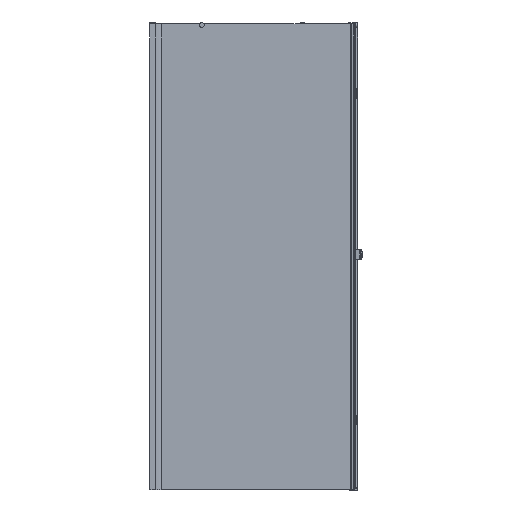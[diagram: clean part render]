
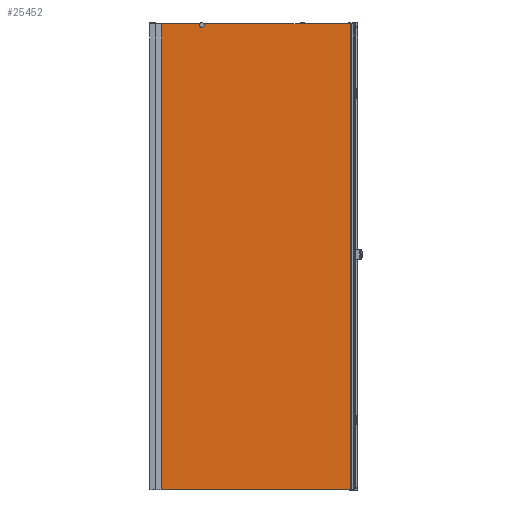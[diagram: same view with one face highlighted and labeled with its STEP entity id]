
A CAD part, front view. The second image highlights one B-rep face of the part: STEP entity #25452.
In plain terms, the highlighted planar face has unit normal (0, -1, 0).
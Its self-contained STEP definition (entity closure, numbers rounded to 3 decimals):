
#885=PLANE($,#27602);
#2660=LINE($,#55215,#4877);
#3184=LINE($,#56915,#5401);
#3209=LINE($,#56996,#5426);
#3223=LINE($,#57030,#5440);
#3224=LINE($,#57031,#5441);
#4877=VECTOR($,#32168,627.423);
#5401=VECTOR($,#33470,1998.591);
#5426=VECTOR($,#33551,809.419);
#5440=VECTOR($,#33573,164.716);
#5441=VECTOR($,#33574,2000.);
#7126=FACE_OUTER_BOUND($,#8625,.T.);
#8625=EDGE_LOOP($,(#21500,#21501,#21502,#21503,#21504,#21505,#21506));
#9928=CIRCLE($,#27207,10.);
#9982=CIRCLE($,#27460,2.);
#11714=VERTEX_POINT($,#55212);
#11715=VERTEX_POINT($,#55214);
#11770=VERTEX_POINT($,#55375);
#12046=VERTEX_POINT($,#56409);
#12047=VERTEX_POINT($,#56411);
#12169=VERTEX_POINT($,#56995);
#12185=VERTEX_POINT($,#57029);
#14702=EDGE_CURVE($,#11715,#11714,#2660,.T.);
#14762=EDGE_CURVE($,#11714,#11770,#9928,.T.);
#15232=EDGE_CURVE($,#12047,#12046,#9982,.T.);
#15392=EDGE_CURVE($,#12046,#11715,#3184,.T.);
#15433=EDGE_CURVE($,#12047,#12169,#3209,.T.);
#15450=EDGE_CURVE($,#11770,#12185,#3223,.T.);
#15451=EDGE_CURVE($,#12185,#12169,#3224,.T.);
#21500=ORIENTED_EDGE($,*,*,#14762,.T.);
#21501=ORIENTED_EDGE($,*,*,#15450,.T.);
#21502=ORIENTED_EDGE($,*,*,#15451,.T.);
#21503=ORIENTED_EDGE($,*,*,#15433,.F.);
#21504=ORIENTED_EDGE($,*,*,#15232,.T.);
#21505=ORIENTED_EDGE($,*,*,#15392,.T.);
#21506=ORIENTED_EDGE($,*,*,#14702,.T.);
#25452=ADVANCED_FACE($,(#7126),#885,.T.);
#27207=AXIS2_PLACEMENT_3D($,#55376,#32251,#32252);
#27460=AXIS2_PLACEMENT_3D($,#56412,#33162,#33163);
#27602=AXIS2_PLACEMENT_3D($,#57028,#33571,#33572);
#32168=DIRECTION($,(-1.,0.,0.));
#32251=DIRECTION('center_axis',(0.,1.,0.));
#32252=DIRECTION('ref_axis',(-1.,0.,0.));
#33162=DIRECTION('center_axis',(0.,1.,0.));
#33163=DIRECTION('ref_axis',(-1.,0.,0.));
#33470=DIRECTION($,(0.,0.,1.));
#33551=DIRECTION($,(-1.,0.,0.));
#33571=DIRECTION('center_axis',(0.,-1.,0.));
#33572=DIRECTION('ref_axis',(-1.,0.,0.));
#33573=DIRECTION($,(-1.,0.,0.));
#33574=DIRECTION($,(0.,0.,-1.));
#55212=CARTESIAN_POINT('',(598.596,-34.044,1485.944));
#55214=CARTESIAN_POINT('',(1226.019,-34.044,1485.944));
#55215=CARTESIAN_POINT($,(1231.019,-34.044,1485.944));
#55375=CARTESIAN_POINT('',(580.735,-34.044,1485.944));
#55376=CARTESIAN_POINT('Origin',(589.666,-34.044,1481.444));
#56409=CARTESIAN_POINT('',(1226.019,-34.044,-512.646));
#56411=CARTESIAN_POINT('',(1225.438,-34.044,-514.056));
#56412=CARTESIAN_POINT('Origin',(1227.438,-34.044,-514.056));
#56915=CARTESIAN_POINT($,(1226.019,-34.044,485.944));
#56995=CARTESIAN_POINT('',(416.019,-34.044,-514.056));
#56996=CARTESIAN_POINT($,(1231.019,-34.044,-514.056));
#57028=CARTESIAN_POINT('Origin',(1231.019,-34.044,1485.944));
#57029=CARTESIAN_POINT('',(416.019,-34.044,1485.944));
#57030=CARTESIAN_POINT($,(1231.019,-34.044,1485.944));
#57031=CARTESIAN_POINT($,(416.019,-34.044,485.944));
